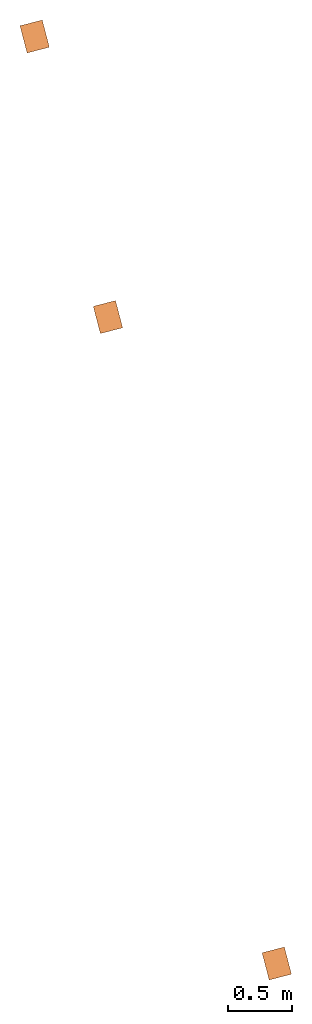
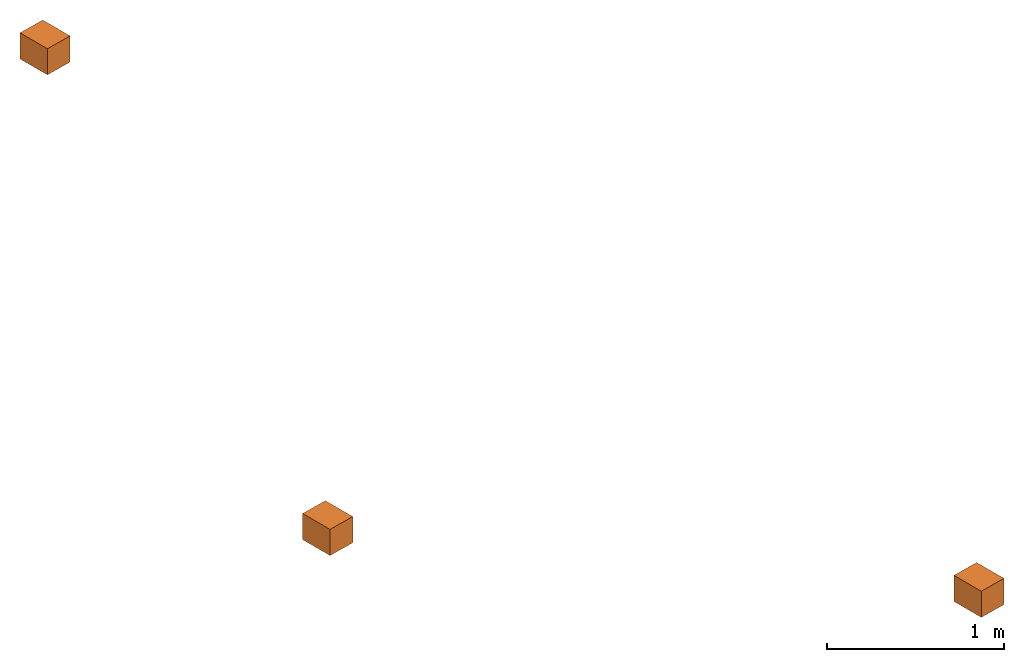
# One storey: 3 proxies.
"""IFC2X3 building model written with IfcOpenShell, lengths in centimetres."""

from ifc_helpers import new_model, entity, si_unit, converted_unit, derived_unit, direction, frame, frame_2d, origin, origin_2d_with_axis, place, context, subcontext, project, spatial, rectangle, extrude, source, transform, mapped, material, type_object, type_shapes, element, save


model = new_model("IFC2X3")

# Units and contexts
model_context = context("Model", 3, precision=0.001, world=origin(), true_north=direction((6.12303176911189e-17, 1.0)))
body_context = subcontext(model_context, "Body", "Model", "MODEL_VIEW")
ifc_project = project(units=[si_unit("LENGTHUNIT", "METRE", prefix="CENTI"), si_unit("AREAUNIT", "SQUARE_METRE"), si_unit("VOLUMEUNIT", "CUBIC_METRE"), converted_unit("PLANEANGLEUNIT", "DEGREE", entity("IfcRatioMeasure", 0.0174532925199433), si_unit("PLANEANGLEUNIT", "RADIAN"), dimensions=[0, 0, 0, 0, 0, 0, 0]), si_unit("MASSUNIT", "GRAM", prefix="KILO"), derived_unit("MASSDENSITYUNIT", [(si_unit("MASSUNIT", "GRAM", prefix="KILO"), 1), (si_unit("LENGTHUNIT", "METRE"), -3)]), si_unit("TIMEUNIT", "SECOND"), si_unit("FREQUENCYUNIT", "HERTZ"), si_unit("THERMODYNAMICTEMPERATUREUNIT", "DEGREE_CELSIUS"), derived_unit("THERMALTRANSMITTANCEUNIT", [(si_unit("MASSUNIT", "GRAM", prefix="KILO"), 1), (si_unit("THERMODYNAMICTEMPERATUREUNIT", "KELVIN"), -1), (si_unit("TIMEUNIT", "SECOND"), -3)]), derived_unit("VOLUMETRICFLOWRATEUNIT", [(si_unit("LENGTHUNIT", "METRE"), 3), (si_unit("TIMEUNIT", "SECOND"), -1)]), si_unit("ELECTRICCURRENTUNIT", "AMPERE"), si_unit("ELECTRICVOLTAGEUNIT", "VOLT"), si_unit("POWERUNIT", "WATT"), si_unit("FORCEUNIT", "NEWTON"), si_unit("ILLUMINANCEUNIT", "LUX"), si_unit("LUMINOUSFLUXUNIT", "LUMEN"), si_unit("LUMINOUSINTENSITYUNIT", "CANDELA"), derived_unit("USERDEFINED", [(si_unit("MASSUNIT", "GRAM", prefix="KILO"), -1), (si_unit("LENGTHUNIT", "METRE"), -2), (si_unit("TIMEUNIT", "SECOND"), 3), (si_unit("LUMINOUSFLUXUNIT", "LUMEN"), 1)]), derived_unit("LINEARVELOCITYUNIT", [(si_unit("LENGTHUNIT", "METRE"), 1), (si_unit("TIMEUNIT", "SECOND"), -1)]), si_unit("PRESSUREUNIT", "PASCAL"), derived_unit("USERDEFINED", [(si_unit("LENGTHUNIT", "METRE"), -2), (si_unit("MASSUNIT", "GRAM", prefix="KILO"), 1), (si_unit("TIMEUNIT", "SECOND"), -2)])], contexts=[model_context])

# Site, building, storey
site_placement = place(None, origin())
site = spatial("IfcSite", under=ifc_project, at=site_placement, Name="Default", CompositionType="ELEMENT")
building_placement = place(site_placement, origin())
building = spatial("IfcBuilding", under=site, at=building_placement, Name="CAGE 03", CompositionType="ELEMENT")
storey_placement = place(building_placement, frame((0.0, 0.0, -55.0)))
storey = spatial("IfcBuildingStorey", under=building, at=storey_placement, Name="+3.45", CompositionType="ELEMENT", Elevation=-55.0000000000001)

# Proxies
ifc_material = material(Name="BBGO_Résa")
building_element_proxy_type_1 = type_object("IfcBuildingElementProxyType", Name="Réservation", PredefinedType="NOTDEFINED", material=ifc_material)
shared_shape_1 = source(origin(), body_context, "Body", "SweptSolid", [
    extrude(rectangle(XDim=18.000000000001, YDim=21.9999999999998, at=frame_2d((-1.67688085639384e-12, 4.37871960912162e-13), x_axis=(1.0, 0.0))), frame((11319.1099054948, 5008.04063856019, 208.0), z_axis=(0.0, 0.0, 1.0), x_axis=(0.967549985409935, 0.252679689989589, 0.0)), (0.0, 0.0, 1.0), 18.0),
])
type_shapes(building_element_proxy_type_1, [shared_shape_1])
proxy_1_placement = place(storey_placement, frame((0.0, 0.0, 55.0)))
element("IfcBuildingElementProxy", 1, at=proxy_1_placement, inside=storey, type_object=building_element_proxy_type_1, material=ifc_material, Name="BBGO-Résa rect et circ:Réservation", ObjectType="Réservation", context=body_context, shape_type="MappedRepresentation", body=[
    mapped(shared_shape_1, transform((0.0, 0.0, 0.0), scale=1.0)),
])
building_element_proxy_type_2 = type_object("IfcBuildingElementProxyType", Name="Réservation", PredefinedType="NOTDEFINED", material=ifc_material)
shared_shape_2 = source(origin(), body_context, "Body", "SweptSolid", [
    extrude(rectangle(XDim=18.000000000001, YDim=21.9999999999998, at=frame_2d((-1.67688085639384e-12, 4.37871960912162e-13), x_axis=(1.0, 0.0))), frame((11508.6196729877, 4282.37814950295, 208.0), z_axis=(0.0, 0.0, 1.0), x_axis=(0.967549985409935, 0.252679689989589, 0.0)), (0.0, 0.0, 1.0), 18.0),
])
type_shapes(building_element_proxy_type_2, [shared_shape_2])
proxy_2_placement = place(storey_placement, frame((0.0, 0.0, 55.0)))
element("IfcBuildingElementProxy", 2, at=proxy_2_placement, inside=storey, type_object=building_element_proxy_type_2, material=ifc_material, Name="BBGO-Résa rect et circ:Réservation", ObjectType="Réservation", context=body_context, shape_type="MappedRepresentation", body=[
    mapped(shared_shape_2, transform((0.0, 0.0, 0.0), scale=1.0)),
])
building_element_proxy_type_3 = type_object("IfcBuildingElementProxyType", Name="Réservation", PredefinedType="NOTDEFINED", material=ifc_material)
shared_shape_3 = source(origin(), body_context, "Body", "SweptSolid", [
    extrude(rectangle(XDim=18.000000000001, YDim=21.9999999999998, at=origin_2d_with_axis()), frame((11376.4681951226, 4788.40679187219, -10.0), z_axis=(0.0, 0.0, 1.0), x_axis=(0.967549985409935, 0.252679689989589, 0.0)), (0.0, 0.0, 1.0), 18.0),
])
type_shapes(building_element_proxy_type_3, [shared_shape_3])
proxy_3_placement = place(storey_placement, frame((0.0, 0.0, 55.0)))
element("IfcBuildingElementProxy", 3, at=proxy_3_placement, inside=storey, type_object=building_element_proxy_type_3, material=ifc_material, Name="BBGO-Résa rect et circ:Réservation", ObjectType="Réservation", context=body_context, shape_type="MappedRepresentation", body=[
    mapped(shared_shape_3, transform((0.0, 0.0, 0.0), scale=1.0)),
])

save(model, "model.ifc")
